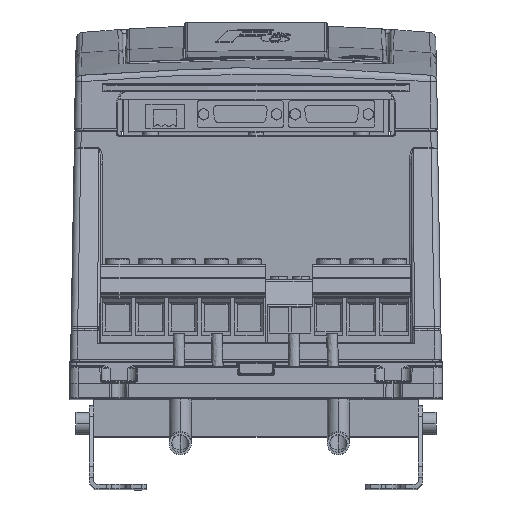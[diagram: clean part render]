
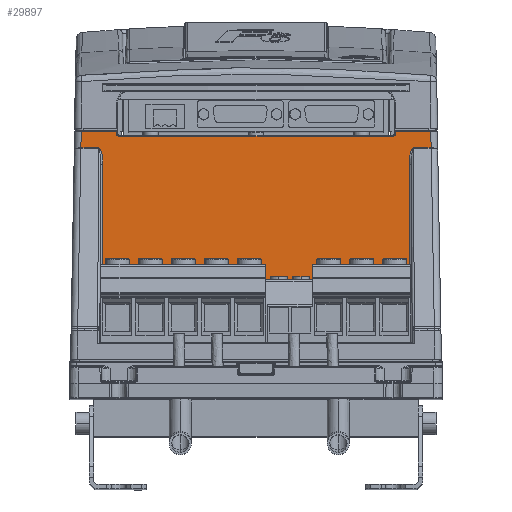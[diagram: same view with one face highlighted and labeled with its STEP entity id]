
A CAD part, top view. The second image highlights one B-rep face of the part: STEP entity #29897.
In plain terms, the highlighted planar face has unit normal (0, 0, 1).
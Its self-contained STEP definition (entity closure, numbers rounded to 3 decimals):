
#545 = CARTESIAN_POINT ( 'NONE',  ( 69.763, -47.4, 124. ) ) ;
#2124 = CARTESIAN_POINT ( 'NONE',  ( -62.5, 46.6, 124. ) ) ;
#2180 = AXIS2_PLACEMENT_3D ( 'NONE', #11751, #62137, #21695 ) ;
#2852 = VERTEX_POINT ( 'NONE', #10195 ) ;
#3050 = EDGE_CURVE ( 'NONE', #48943, #4164, #39921, .T. ) ;
#3875 = ORIENTED_EDGE ( 'NONE', *, *, #25441, .T. ) ;
#4164 = VERTEX_POINT ( 'NONE', #11017 ) ;
#4240 = DIRECTION ( 'NONE',  ( -1., 0., 0. ) ) ;
#4438 = EDGE_CURVE ( 'NONE', #39231, #2852, #49450, .T. ) ;
#5628 = CARTESIAN_POINT ( 'NONE',  ( 69.763, 33.786, 124. ) ) ;
#5816 = AXIS2_PLACEMENT_3D ( 'NONE', #63829, #35135, #24115 ) ;
#7819 = VERTEX_POINT ( 'NONE', #2124 ) ;
#8633 = CARTESIAN_POINT ( 'NONE',  ( -63.5, 47.6, 124. ) ) ;
#10195 = CARTESIAN_POINT ( 'NONE',  ( 79.765, 41.234, 124. ) ) ;
#10320 = CARTESIAN_POINT ( 'NONE',  ( -71.729, 41.234, 124. ) ) ;
#10580 = ORIENTED_EDGE ( 'NONE', *, *, #46627, .T. ) ;
#10909 = ORIENTED_EDGE ( 'NONE', *, *, #60973, .T. ) ;
#11017 = CARTESIAN_POINT ( 'NONE',  ( -63.5, 48.6, 124. ) ) ;
#11562 = CARTESIAN_POINT ( 'NONE',  ( -69.763, 33.786, 124. ) ) ;
#11751 = CARTESIAN_POINT ( 'NONE',  ( 62.5, 47.6, 124. ) ) ;
#15264 = EDGE_CURVE ( 'NONE', #4164, #56865, #43526, .T. ) ;
#15333 = EDGE_CURVE ( 'NONE', #20120, #39231, #18893, .T. ) ;
#15715 = ORIENTED_EDGE ( 'NONE', *, *, #3050, .T. ) ;
#15784 = CARTESIAN_POINT ( 'NONE',  ( -78.911, 89.115, 124. ) ) ;
#16379 = DIRECTION ( 'NONE',  ( 0., 0., 1. ) ) ;
#16421 = ORIENTED_EDGE ( 'NONE', *, *, #53148, .T. ) ;
#16565 = DIRECTION ( 'NONE',  ( 0., 1., 0. ) ) ;
#17442 = VECTOR ( 'NONE', #22610, 1000. ) ;
#18677 = EDGE_CURVE ( 'NONE', #41658, #62494, #20320, .T. ) ;
#18893 =( BOUNDED_CURVE ( )  B_SPLINE_CURVE ( 3, ( #5628, #23280, #51211, #23645 ),
 .UNSPECIFIED., .F., .T. ) 
 B_SPLINE_CURVE_WITH_KNOTS ( ( 4, 4 ),
 ( 4.73, 6.284 ),
 .UNSPECIFIED. ) 
 CURVE ( )  GEOMETRIC_REPRESENTATION_ITEM ( )  RATIONAL_B_SPLINE_CURVE ( ( 1., 0.809, 0.809, 1. ) ) 
 REPRESENTATION_ITEM ( '' )  );
#20120 = VERTEX_POINT ( 'NONE', #56333 ) ;
#20320 = LINE ( 'NONE', #69266, #22379 ) ;
#21695 = DIRECTION ( 'NONE',  ( -1., 0., 0. ) ) ;
#21805 = CARTESIAN_POINT ( 'NONE',  ( -69.763, 89.215, 124. ) ) ;
#22368 = CARTESIAN_POINT ( 'NONE',  ( -84.5, 48.6, 124. ) ) ;
#22379 = VECTOR ( 'NONE', #53052, 1000. ) ;
#22507 = CARTESIAN_POINT ( 'NONE',  ( -69.763, -47.4, 124. ) ) ;
#22610 = DIRECTION ( 'NONE',  ( 1., 0., 0. ) ) ;
#22729 = DIRECTION ( 'NONE',  ( -1., 0., 0. ) ) ;
#23280 = CARTESIAN_POINT ( 'NONE',  ( 69.763, 38.164, 124. ) ) ;
#23645 = CARTESIAN_POINT ( 'NONE',  ( 71.729, 41.234, 124. ) ) ;
#24115 = DIRECTION ( 'NONE',  ( -1., 0., 0. ) ) ;
#25441 = EDGE_CURVE ( 'NONE', #64242, #66145, #67426, .T. ) ;
#26233 = VECTOR ( 'NONE', #50112, 1000. ) ;
#26400 = CARTESIAN_POINT ( 'NONE',  ( -69.763, 38.164, 124. ) ) ;
#27123 = ORIENTED_EDGE ( 'NONE', *, *, #45452, .F. ) ;
#27347 = DIRECTION ( 'NONE',  ( -1., 0., 0. ) ) ;
#27416 = LINE ( 'NONE', #33291, #17442 ) ;
#28115 = EDGE_CURVE ( 'NONE', #48319, #64242, #27416, .T. ) ;
#29897 = ADVANCED_FACE ( 'NONE', ( #52406 ), #31085, .F. ) ;
#30934 = CARTESIAN_POINT ( 'NONE',  ( -79.633, 48.6, 124. ) ) ;
#31085 = PLANE ( 'NONE',  #5816 ) ;
#31972 = ORIENTED_EDGE ( 'NONE', *, *, #42877, .T. ) ;
#33291 = CARTESIAN_POINT ( 'NONE',  ( -71.729, 41.234, 124. ) ) ;
#34177 = VECTOR ( 'NONE', #16565, 1000. ) ;
#34338 = CIRCLE ( 'NONE', #40218, 1. ) ;
#34605 = VECTOR ( 'NONE', #68985, 1000. ) ;
#35135 = DIRECTION ( 'NONE',  ( 0., 0., -1. ) ) ;
#35464 = VERTEX_POINT ( 'NONE', #545 ) ;
#36393 = LINE ( 'NONE', #63614, #39043 ) ;
#37638 = CARTESIAN_POINT ( 'NONE',  ( 79.633, 48.6, 124. ) ) ;
#38252 = VECTOR ( 'NONE', #59918, 1000. ) ;
#38542 = CIRCLE ( 'NONE', #2180, 1. ) ;
#38875 = CARTESIAN_POINT ( 'NONE',  ( -70.573, 41.234, 124. ) ) ;
#39043 = VECTOR ( 'NONE', #60256, 1000. ) ;
#39180 = ORIENTED_EDGE ( 'NONE', *, *, #68116, .T. ) ;
#39231 = VERTEX_POINT ( 'NONE', #56140 ) ;
#39921 = LINE ( 'NONE', #62376, #34605 ) ;
#40218 = AXIS2_PLACEMENT_3D ( 'NONE', #54603, #16379, #4240 ) ;
#41064 = CARTESIAN_POINT ( 'NONE',  ( 63.5, 48.6, 124. ) ) ;
#41658 = VERTEX_POINT ( 'NONE', #41064 ) ;
#42502 = DIRECTION ( 'NONE',  ( -1., 0., 0. ) ) ;
#42877 = EDGE_CURVE ( 'NONE', #56865, #48319, #48884, .T. ) ;
#42987 = ORIENTED_EDGE ( 'NONE', *, *, #18677, .T. ) ;
#43526 = LINE ( 'NONE', #60099, #46895 ) ;
#44136 = LINE ( 'NONE', #72081, #34177 ) ;
#45166 = VECTOR ( 'NONE', #71870, 1000. ) ;
#45452 = EDGE_CURVE ( 'NONE', #50844, #62494, #38542, .T. ) ;
#46167 = ORIENTED_EDGE ( 'NONE', *, *, #15264, .T. ) ;
#46263 = EDGE_CURVE ( 'NONE', #48943, #7819, #34338, .T. ) ;
#46627 = EDGE_CURVE ( 'NONE', #66145, #46756, #65954, .T. ) ;
#46756 = VERTEX_POINT ( 'NONE', #22507 ) ;
#46822 = VECTOR ( 'NONE', #22729, 1000. ) ;
#46895 = VECTOR ( 'NONE', #27347, 1000. ) ;
#47608 = LINE ( 'NONE', #64885, #65966 ) ;
#48319 = VERTEX_POINT ( 'NONE', #62900 ) ;
#48884 = LINE ( 'NONE', #15784, #38252 ) ;
#48943 = VERTEX_POINT ( 'NONE', #8633 ) ;
#49071 = ORIENTED_EDGE ( 'NONE', *, *, #15333, .T. ) ;
#49450 = LINE ( 'NONE', #55678, #45166 ) ;
#50112 = DIRECTION ( 'NONE',  ( 0., -1., 0. ) ) ;
#50318 = ORIENTED_EDGE ( 'NONE', *, *, #65689, .F. ) ;
#50844 = VERTEX_POINT ( 'NONE', #61843 ) ;
#51146 = ORIENTED_EDGE ( 'NONE', *, *, #28115, .T. ) ;
#51211 = CARTESIAN_POINT ( 'NONE',  ( 70.573, 41.234, 124. ) ) ;
#52406 = FACE_OUTER_BOUND ( 'NONE', #57961, .T. ) ;
#52819 = LINE ( 'NONE', #64958, #54711 ) ;
#53052 = DIRECTION ( 'NONE',  ( 0., -1., 0. ) ) ;
#53148 = EDGE_CURVE ( 'NONE', #2852, #64916, #47608, .T. ) ;
#54339 = CARTESIAN_POINT ( 'NONE',  ( -69.763, 33.786, 124. ) ) ;
#54603 = CARTESIAN_POINT ( 'NONE',  ( -62.5, 47.6, 124. ) ) ;
#54711 = VECTOR ( 'NONE', #42502, 1000. ) ;
#55678 = CARTESIAN_POINT ( 'NONE',  ( 79.767, 41.234, 124. ) ) ;
#56140 = CARTESIAN_POINT ( 'NONE',  ( 71.729, 41.234, 124. ) ) ;
#56333 = CARTESIAN_POINT ( 'NONE',  ( 69.763, 33.786, 124. ) ) ;
#56865 = VERTEX_POINT ( 'NONE', #30934 ) ;
#57961 = EDGE_LOOP ( 'NONE', ( #50318, #10909, #49071, #60408, #16421, #61802, #42987, #27123, #39180, #66770, #15715, #46167, #31972, #51146, #3875, #10580 ) ) ;
#59918 = DIRECTION ( 'NONE',  ( -0.018, -1., 0. ) ) ;
#60099 = CARTESIAN_POINT ( 'NONE',  ( -84.5, 48.6, 124. ) ) ;
#60256 = DIRECTION ( 'NONE',  ( -1., 0., 0. ) ) ;
#60408 = ORIENTED_EDGE ( 'NONE', *, *, #4438, .T. ) ;
#60611 = CARTESIAN_POINT ( 'NONE',  ( -71.729, 41.234, 124. ) ) ;
#60973 = EDGE_CURVE ( 'NONE', #35464, #20120, #44136, .T. ) ;
#61802 = ORIENTED_EDGE ( 'NONE', *, *, #72626, .T. ) ;
#61843 = CARTESIAN_POINT ( 'NONE',  ( 62.5, 46.6, 124. ) ) ;
#62137 = DIRECTION ( 'NONE',  ( 0., 0., 1. ) ) ;
#62376 = CARTESIAN_POINT ( 'NONE',  ( -63.5, 89.215, 124. ) ) ;
#62494 = VERTEX_POINT ( 'NONE', #65282 ) ;
#62900 = CARTESIAN_POINT ( 'NONE',  ( -79.765, 41.234, 124. ) ) ;
#63614 = CARTESIAN_POINT ( 'NONE',  ( -84.5, -47.4, 124. ) ) ;
#63829 = CARTESIAN_POINT ( 'NONE',  ( -84.5, 89.215, 124. ) ) ;
#64242 = VERTEX_POINT ( 'NONE', #10320 ) ;
#64885 = CARTESIAN_POINT ( 'NONE',  ( 78.857, 92.127, 124. ) ) ;
#64916 = VERTEX_POINT ( 'NONE', #37638 ) ;
#64958 = CARTESIAN_POINT ( 'NONE',  ( 49.191, 46.6, 124. ) ) ;
#65282 = CARTESIAN_POINT ( 'NONE',  ( 63.5, 47.6, 124. ) ) ;
#65689 = EDGE_CURVE ( 'NONE', #35464, #46756, #36393, .T. ) ;
#65954 = LINE ( 'NONE', #21805, #26233 ) ;
#65966 = VECTOR ( 'NONE', #70051, 1000. ) ;
#66145 = VERTEX_POINT ( 'NONE', #11562 ) ;
#66770 = ORIENTED_EDGE ( 'NONE', *, *, #46263, .F. ) ;
#67426 =( BOUNDED_CURVE ( )  B_SPLINE_CURVE ( 3, ( #60611, #38875, #26400, #54339 ),
 .UNSPECIFIED., .F., .T. ) 
 B_SPLINE_CURVE_WITH_KNOTS ( ( 4, 4 ),
 ( 6.282, 7.836 ),
 .UNSPECIFIED. ) 
 CURVE ( )  GEOMETRIC_REPRESENTATION_ITEM ( )  RATIONAL_B_SPLINE_CURVE ( ( 1., 0.809, 0.809, 1. ) ) 
 REPRESENTATION_ITEM ( '' )  );
#68116 = EDGE_CURVE ( 'NONE', #50844, #7819, #52819, .T. ) ;
#68985 = DIRECTION ( 'NONE',  ( 0., 1., 0. ) ) ;
#69266 = CARTESIAN_POINT ( 'NONE',  ( 63.5, 89.215, 124. ) ) ;
#70051 = DIRECTION ( 'NONE',  ( -0.018, 1., 0. ) ) ;
#71870 = DIRECTION ( 'NONE',  ( 1., 0., 0. ) ) ;
#72081 = CARTESIAN_POINT ( 'NONE',  ( 69.763, 89.215, 124. ) ) ;
#72626 = EDGE_CURVE ( 'NONE', #64916, #41658, #72751, .T. ) ;
#72751 = LINE ( 'NONE', #22368, #46822 ) ;
